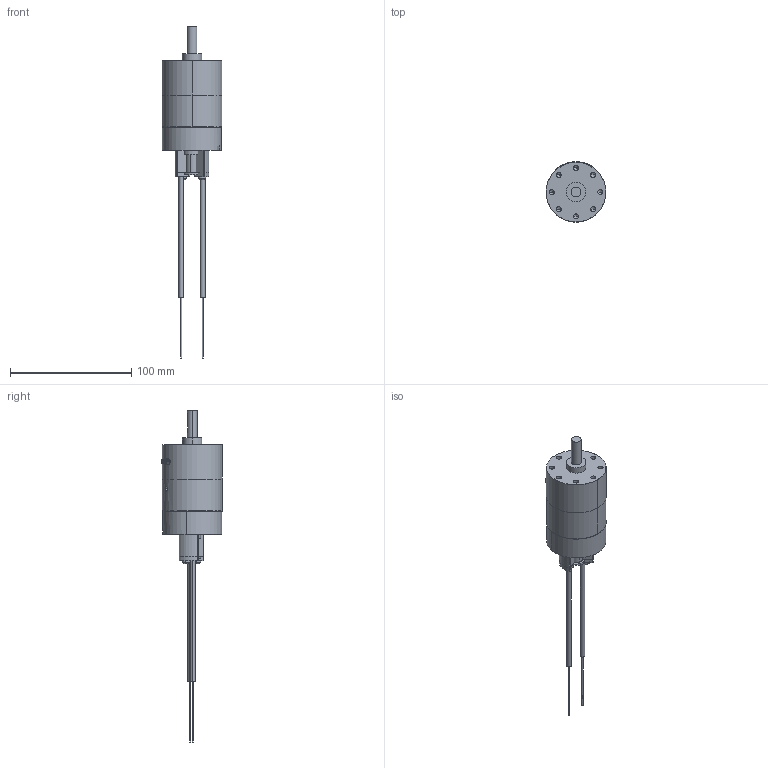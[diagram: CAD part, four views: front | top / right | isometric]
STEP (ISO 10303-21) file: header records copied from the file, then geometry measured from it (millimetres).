
FILE_DESCRIPTION (( 'STEP AP203' ), '1' );
FILE_NAME ('PROA20S-#-#-#-FR.STEP', '2016-02-04T07:02:25', ( 'Sam Lin' ), ( '' ), 'SwSTEP 2.0', 'SolidWorks 2013', '' );
FILE_SCHEMA (( 'CONFIG_CONTROL_DESIGN' ));
Length unit declared in the file: metre
Products named in the file (13): PROA20S-#-#-#-FR; PROA20S-#-# (6); mark-PROA20S; PR0A20S-#-#-#-FR (6); PR0A20S-#-#-#-FR (1); PR0A20S-#-#-#-FR (2); PROA20S-#-# (2); PROA20S-#-# (4); PR0A20S-#-#-#-FR (4); PROA20S-#-# (3); PR0A20S-#-#-#-FR (5); PROA20S-#-# (1); 鏡射PROA20S-#-# (4)
Assembly tree (16 placements, depth 2):
  PROA20S-#-#-#-FR
    PROA20S-#-# (2)
    PROA20S-#-# (3)
    PROA20S-#-# (1)
    PROA20S-#-# (4)
    PROA20S-#-# (6)
    mark-PROA20S
    PR0A20S-#-#-#-FR (6)
    PR0A20S-#-#-#-FR (1)  x2
    PR0A20S-#-#-#-FR (2)  x2
    PR0A20S-#-#-#-FR (4)  x2
    PR0A20S-#-#-#-FR (5)  x2
    鏡射PROA20S-#-# (4)
Bounding box: 49.5 x 49.78 x 274.2 mm (x, y, z)
Volume: 123878.1 mm3; surface area: 43695.6 mm2
Topology: 23 solids, 23 shells, 522 faces, 1305 edges, 855 vertices
Faces by surface type: cylinder 242, plane 217, bspline 39, cone 24
Entity records: 19603 total; most frequent: CARTESIAN_POINT 7233, ORIENTED_EDGE 2252, DIRECTION 2251, EDGE_CURVE 1126, AXIS2_PLACEMENT_3D 855, VERTEX_POINT 749, VECTOR 541, LINE 541
